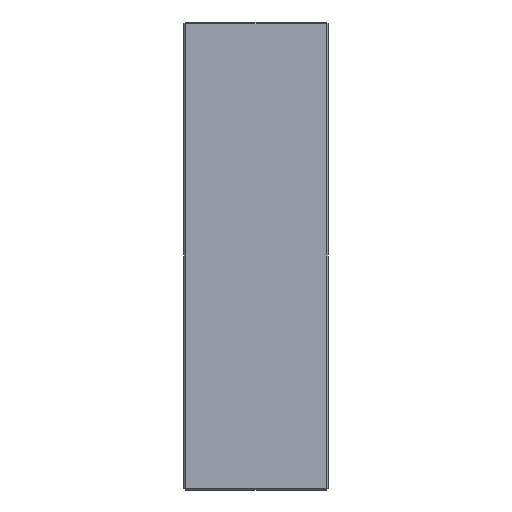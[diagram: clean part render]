
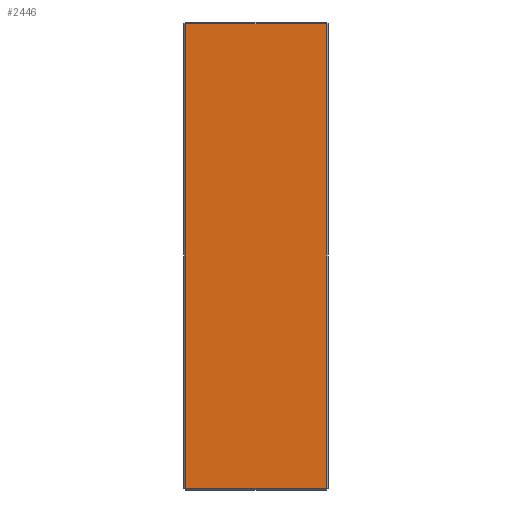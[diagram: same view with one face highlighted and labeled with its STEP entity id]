
A CAD part, left-side view. The second image highlights one B-rep face of the part: STEP entity #2446.
In plain terms, the highlighted planar face has unit normal (-1, 0, 0).
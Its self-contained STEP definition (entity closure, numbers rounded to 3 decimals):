
#13 = EDGE_CURVE ( 'NONE', #703, #1014, #2559, .T. ) ;
#194 = DIRECTION ( 'NONE',  ( 0., 1., 0. ) ) ;
#200 = CARTESIAN_POINT ( 'NONE',  ( -123., 76., 122. ) ) ;
#254 = PLANE ( 'NONE',  #1498 ) ;
#271 = CARTESIAN_POINT ( 'NONE',  ( -123., 76., 123. ) ) ;
#393 = CARTESIAN_POINT ( 'NONE',  ( -123., 1., -122. ) ) ;
#394 = DIRECTION ( 'NONE',  ( 1., 0., 0. ) ) ;
#438 = VECTOR ( 'NONE', #1152, 1000. ) ;
#441 = DIRECTION ( 'NONE',  ( 0., 0., -1. ) ) ;
#465 = CARTESIAN_POINT ( 'NONE',  ( -123., 1., 122. ) ) ;
#505 = VECTOR ( 'NONE', #2408, 1000. ) ;
#579 = CARTESIAN_POINT ( 'NONE',  ( -123., 1., 123. ) ) ;
#703 = VERTEX_POINT ( 'NONE', #1505 ) ;
#710 = LINE ( 'NONE', #579, #438 ) ;
#715 = VECTOR ( 'NONE', #194, 1000. ) ;
#748 = LINE ( 'NONE', #2427, #505 ) ;
#766 = LINE ( 'NONE', #200, #715 ) ;
#886 = ORIENTED_EDGE ( 'NONE', *, *, #13, .T. ) ;
#887 = ORIENTED_EDGE ( 'NONE', *, *, #2609, .T. ) ;
#913 = VECTOR ( 'NONE', #969, 1000. ) ;
#969 = DIRECTION ( 'NONE',  ( 0., -1., 0. ) ) ;
#1003 = FACE_OUTER_BOUND ( 'NONE', #1330, .T. ) ;
#1014 = VERTEX_POINT ( 'NONE', #393 ) ;
#1152 = DIRECTION ( 'NONE',  ( 0., 0., 1. ) ) ;
#1252 = CARTESIAN_POINT ( 'NONE',  ( -123., 76., -122. ) ) ;
#1298 = ORIENTED_EDGE ( 'NONE', *, *, #2505, .T. ) ;
#1330 = EDGE_LOOP ( 'NONE', ( #1298, #887, #886, #1823 ) ) ;
#1498 = AXIS2_PLACEMENT_3D ( 'NONE', #271, #394, #441 ) ;
#1505 = CARTESIAN_POINT ( 'NONE',  ( -123., 75., -122. ) ) ;
#1587 = EDGE_CURVE ( 'NONE', #1014, #1628, #710, .T. ) ;
#1626 = CARTESIAN_POINT ( 'NONE',  ( -123., 75., 122. ) ) ;
#1628 = VERTEX_POINT ( 'NONE', #465 ) ;
#1823 = ORIENTED_EDGE ( 'NONE', *, *, #1587, .T. ) ;
#2313 = VERTEX_POINT ( 'NONE', #1626 ) ;
#2408 = DIRECTION ( 'NONE',  ( 0., 0., -1. ) ) ;
#2427 = CARTESIAN_POINT ( 'NONE',  ( -123., 75., 123. ) ) ;
#2446 = ADVANCED_FACE ( 'NONE', ( #1003 ), #254, .F. ) ;
#2505 = EDGE_CURVE ( 'NONE', #1628, #2313, #766, .T. ) ;
#2559 = LINE ( 'NONE', #1252, #913 ) ;
#2609 = EDGE_CURVE ( 'NONE', #2313, #703, #748, .T. ) ;
